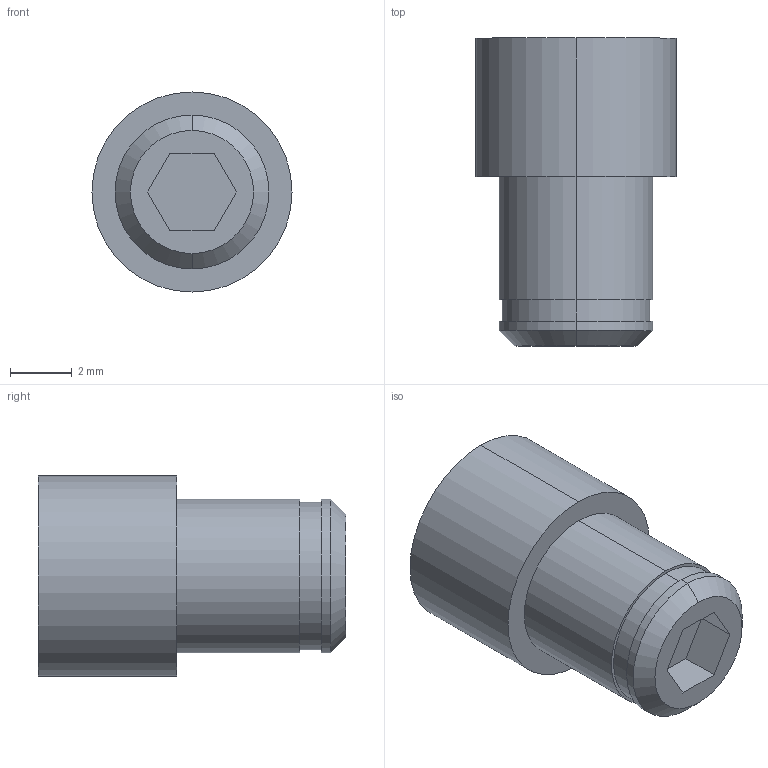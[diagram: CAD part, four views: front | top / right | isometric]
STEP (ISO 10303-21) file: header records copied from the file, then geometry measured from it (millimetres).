
FILE_DESCRIPTION (( 'STEP AP214' ), '1' );
FILE_NAME ('GZ21.30_V1嗉謫粣.STEP', '2021-02-28T09:49:18', ( 'hp' ), ( '' ), 'SwSTEP 2.0', 'SolidWorks 2017', '' );
FILE_SCHEMA (( 'AUTOMOTIVE_DESIGN' ));
Length unit declared in the file: millimetre
Products named in the file (1): GZ21.30_V1嗉謫粣
Bounding box: 6.5 x 10 x 6.5 mm (x, y, z)
Volume: 213 mm3; surface area: 308.5 mm2
Topology: 1 solids, 1 shells, 26 faces, 56 edges, 35 vertices
Faces by surface type: plane 12, cylinder 10, cone 4
Entity records: 752 total; most frequent: DIRECTION 130, CARTESIAN_POINT 116, ORIENTED_EDGE 108, EDGE_CURVE 54, AXIS2_PLACEMENT_3D 49, VERTEX_POINT 35, LINE 32, VECTOR 32
